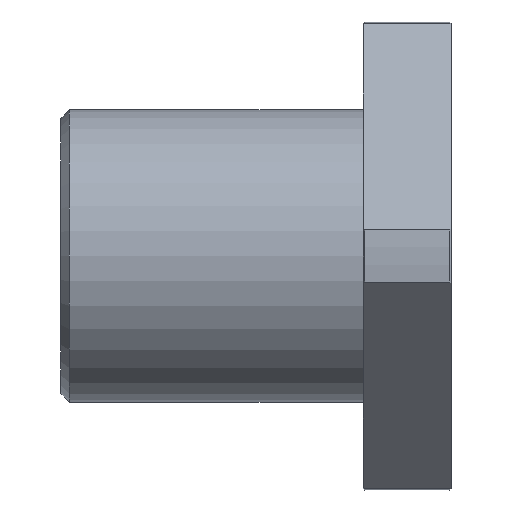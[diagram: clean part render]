
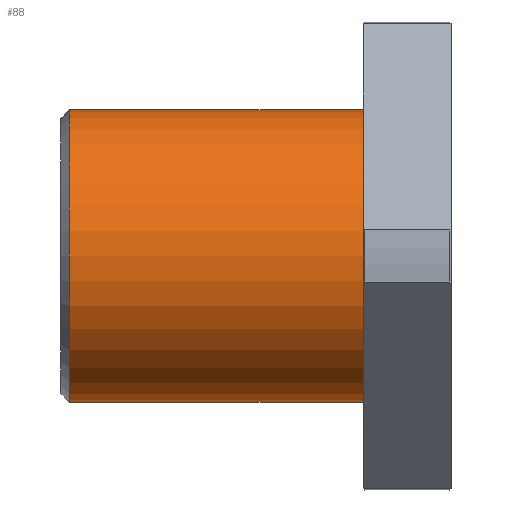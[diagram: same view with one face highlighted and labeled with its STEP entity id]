
A CAD part, front view. The second image highlights one B-rep face of the part: STEP entity #88.
In plain terms, the highlighted cylindrical face has radius 30 mm (diameter 60 mm), a full revolution.
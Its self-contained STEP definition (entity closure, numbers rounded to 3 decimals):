
#88=ADVANCED_FACE('',(#140,#141),#142,.T.);
#140=FACE_OUTER_BOUND('',#234,.T.);
#141=FACE_OUTER_BOUND('',#235,.T.);
#142=CYLINDRICAL_SURFACE('',#236,30.0);
#234=EDGE_LOOP('',(#389));
#235=EDGE_LOOP('',(#390));
#236=AXIS2_PLACEMENT_3D('',#391,#392,#393);
#389=ORIENTED_EDGE('',*,*,#580,.F.);
#390=ORIENTED_EDGE('',*,*,#581,.T.);
#391=CARTESIAN_POINT('',(-80.0,0.,0.0));
#392=DIRECTION('',(1.0,-0.0,-0.0));
#393=DIRECTION('',(0.0,0.0,1.0));
#580=EDGE_CURVE('',#684,#684,#685,.T.);
#581=EDGE_CURVE('',#686,#686,#687,.T.);
#684=VERTEX_POINT('',#857);
#685=CIRCLE('',#858,30.0);
#686=VERTEX_POINT('',#859);
#687=CIRCLE('',#860,30.0);
#857=CARTESIAN_POINT('',(-78.25,0.,30.0));
#858=AXIS2_PLACEMENT_3D('',#981,#982,#983);
#859=CARTESIAN_POINT('',(-18.0,0.,30.0));
#860=AXIS2_PLACEMENT_3D('',#984,#985,#986);
#981=CARTESIAN_POINT('',(-78.25,0.,0.0));
#982=DIRECTION('',(-1.0,0.0,0.0));
#983=DIRECTION('',(0.0,0.0,1.0));
#984=CARTESIAN_POINT('',(-18.0,0.,0.0));
#985=DIRECTION('',(-1.0,0.0,0.0));
#986=DIRECTION('',(0.0,0.0,1.0));
